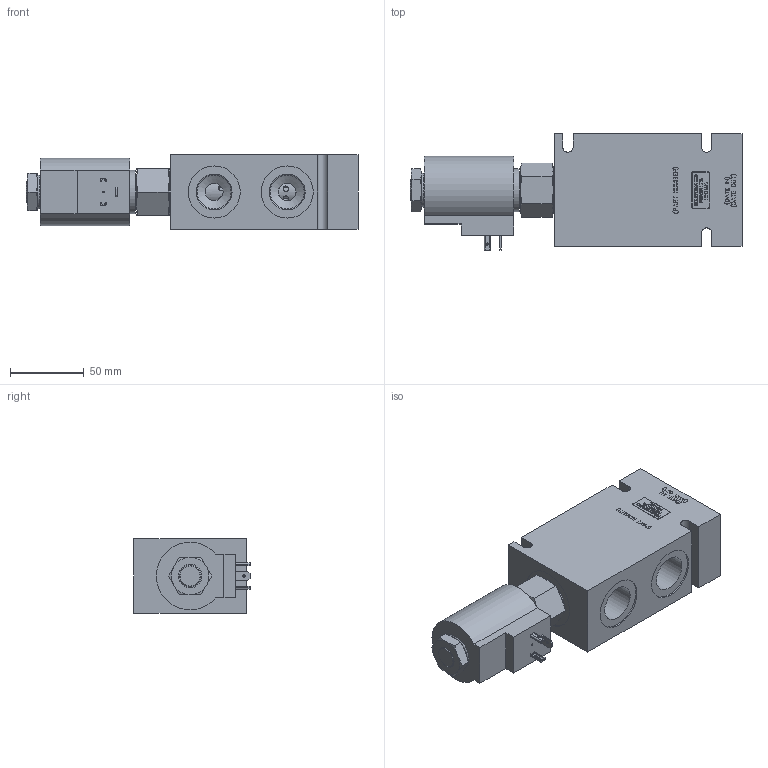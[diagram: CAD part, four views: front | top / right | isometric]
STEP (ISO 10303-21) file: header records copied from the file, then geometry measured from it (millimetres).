
FILE_DESCRIPTION( ( 'Unknown' ), '1' );
FILE_NAME( 'G:/Graphic Design/Graphic Design 2/Data Sheets/SOLENOID OPERATED VALVES/4_STEP/4W2P Spool/HV-S4A00-D4.stp', 'Unknown', ( 'Unknown' ), ( 'Unknown' ), 'PSStep 15.0.49', 'Unknown', ' ' );
FILE_SCHEMA( ( 'AUTOMOTIVE_DESIGN { 1 0 10303 214 1 1 1 1 }' ) );
Length unit declared in the file: millimetre
Products named in the file (26): D-THC12; THC_Body; PT-EL-HC-TerminalConnectors; PT-OR-2-116-N70A; PT-OR-2-119-N70A; T Coil; hvs4a00; HVS4A00-3D FULL1; HVS4A00-3D FULL2; HVS4A00-3D FULL3; HVS4A00-3D FULL4; HVS4A00-3D FULL5; HVS4A00-3D FULL6; HVS4A00-3D FULL7; HVS4A00-3D FULL8; HVS4A00-3D FULL9; HVS4A00-3D FULL10; HVS4A00-3D FULL11; HVS4A00-3D FULL12; HVS4A00-3D FULL13; Assem1; B-D-HV-D4A; Delta_5_8_nut1
Assembly tree (25 placements, depth 4):
  Assem1
    B-D-HV-D4A
    Delta_5_8_nut1
    hvs4a00
      HVS4A00-3D FULL1
      HVS4A00-3D FULL2
      HVS4A00-3D FULL3
      HVS4A00-3D FULL4
      HVS4A00-3D FULL5
      HVS4A00-3D FULL6
      HVS4A00-3D FULL7
      HVS4A00-3D FULL8
      HVS4A00-3D FULL9
      HVS4A00-3D FULL10
      HVS4A00-3D FULL11
      HVS4A00-3D FULL12
      HVS4A00-3D FULL13
    T Coil
      D-THC12
        THC_Body
        PT-EL-HC-TerminalConnectors
        PT-EL-HC-TerminalConnectors
        PT-EL-HC-TerminalConnectors
        PT-EL-HC-TerminalConnectors
        PT-OR-2-116-N70A
        PT-OR-2-119-N70A
Bounding box: 225.01 x 78.75 x 50.8 mm (x, y, z)
Volume: 558057.7 mm3; surface area: 103299.9 mm2
Topology: 22 solids, 22 shells, 1276 faces, 3329 edges, 2201 vertices
Faces by surface type: plane 925, cylinder 159, extrusion 106, cone 73, torus 13
Full cylindrical faces by diameter (mm): 1 x2, 1.5 x3, 3.81 x32, 10.185 x1, 12 x2, 12.703 x1, 13.589 x1, 14.348 x1, 14.935 x1, 16.129 x1, 16.18 x2, 16.98 x1, 17.704 x1, 17.755 x2, 17.78 x1, 18 x1, 18.796 x1, 18.974 x1, 19.025 x2, 19.25 x1, 19.304 x1, 19.355 x2, 20.015 x1, 20.498 x2, 20.549 x2, 20.676 x1, 22.073 x2, 22.149 x2, 22.27 x1, 22.8 x1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
Entity records: 50954 total; most frequent: CARTESIAN_POINT 12487, ORIENTED_EDGE 6176, DIRECTION 4493, EDGE_CURVE 3088, VERTEX_POINT 2139, EDGE_LOOP 1585, VECTOR 1573, LINE 1467
